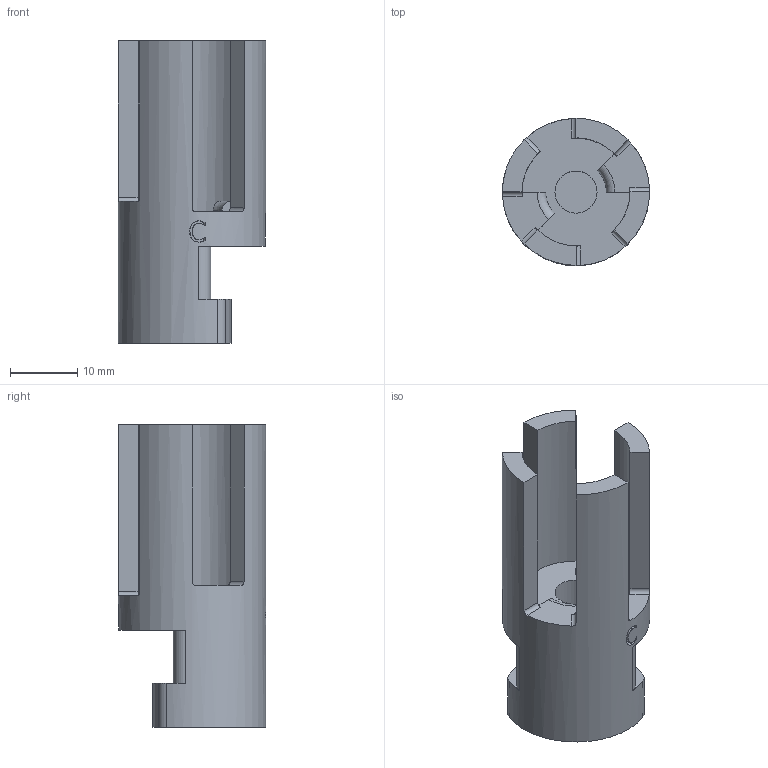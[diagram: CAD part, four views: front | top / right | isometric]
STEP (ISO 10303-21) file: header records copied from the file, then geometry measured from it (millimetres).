
FILE_DESCRIPTION(/* description */ (''),/* implementation_level */ '2;1');
FILE_NAME(/* name */ 'D:\Downloads\Project-ButWhatAbout-ECM-9x19-Barrel-DIY-V1-Package (3)\Revised Components\asdf\ECM CAD\STEP\Chambering End Pilot Metric (6mm).stp',/* time_stamp */ '2021-02-15T01:37:41-06:00',/* author */ ('johne'),/* organization */ (''),/* preprocessor_version */ 'ST-DEVELOPER v18',/* originating_system */ 'Autodesk Inventor 2020',/* authorisation */ '');
FILE_SCHEMA (('AUTOMOTIVE_DESIGN { 1 0 10303 214 3 1 1 }'));
Length unit declared in the file: millimetre
Products named in the file (1): chambering Tool 6mm rod
Bounding box: 21.84 x 21.84 x 44.91 mm (x, y, z)
Volume: 6307.3 mm3; surface area: 4204.6 mm2
Topology: 1 solids, 1 shells, 67 faces, 196 edges, 137 vertices
Faces by surface type: plane 23, cylinder 22, bspline 20, torus 2
Full cylindrical faces by diameter (mm): 6.25 x1, 21.844 x1
Entity records: 2850 total; most frequent: CARTESIAN_POINT 1152, ORIENTED_EDGE 382, DIRECTION 278, EDGE_CURVE 191, VERTEX_POINT 127, AXIS2_PLACEMENT_3D 95, LINE 88, VECTOR 88
